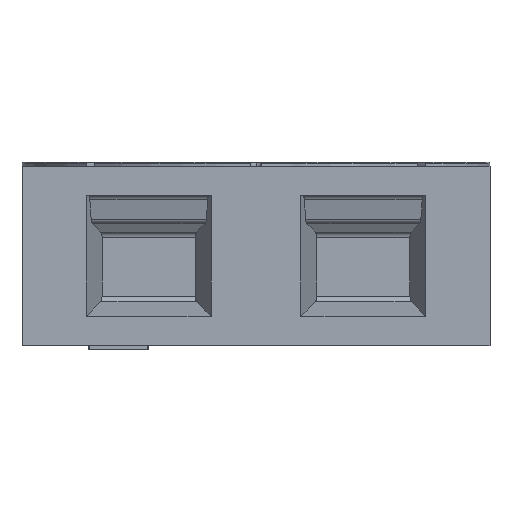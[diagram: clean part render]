
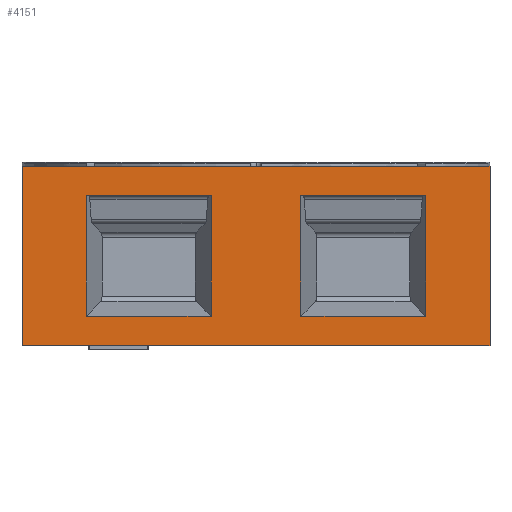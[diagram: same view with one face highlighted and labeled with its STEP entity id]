
A CAD part, front view. The second image highlights one B-rep face of the part: STEP entity #4151.
In plain terms, the highlighted planar face has unit normal (0, -1, 0).
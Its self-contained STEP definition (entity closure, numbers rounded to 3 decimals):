
#165 = VERTEX_POINT ( 'NONE', #20666 ) ;
#337 = CARTESIAN_POINT ( 'NONE',  ( -435., -760., 195. ) ) ;
#626 = LINE ( 'NONE', #18074, #23529 ) ;
#678 = VERTEX_POINT ( 'NONE', #735 ) ;
#735 = CARTESIAN_POINT ( 'NONE',  ( -600., -760., 270. ) ) ;
#919 = DIRECTION ( 'NONE',  ( 0., 0., -1. ) ) ;
#1056 = EDGE_CURVE ( 'NONE', #17198, #13544, #20456, .T. ) ;
#1282 = CARTESIAN_POINT ( 'NONE',  ( -600., -760., 270. ) ) ;
#1517 = EDGE_CURVE ( 'NONE', #678, #10863, #3012, .T. ) ;
#2758 = CARTESIAN_POINT ( 'NONE',  ( 435., -760., 195. ) ) ;
#2892 = LINE ( 'NONE', #7926, #15915 ) ;
#2973 = CARTESIAN_POINT ( 'NONE',  ( -600., -760., -190. ) ) ;
#2980 = ORIENTED_EDGE ( 'NONE', *, *, #16413, .F. ) ;
#2993 = EDGE_LOOP ( 'NONE', ( #10009, #7219, #25128, #26636 ) ) ;
#3012 = LINE ( 'NONE', #1282, #15743 ) ;
#3250 = CARTESIAN_POINT ( 'NONE',  ( 600., -760., -190. ) ) ;
#3374 = AXIS2_PLACEMENT_3D ( 'NONE', #9334, #13662, #22321 ) ;
#3419 = VERTEX_POINT ( 'NONE', #15373 ) ;
#3686 = DIRECTION ( 'NONE',  ( 0., 0., -1. ) ) ;
#3699 = VECTOR ( 'NONE', #18837, 1000. ) ;
#4072 = VECTOR ( 'NONE', #8825, 1000. ) ;
#4151 = ADVANCED_FACE ( 'NONE', ( #11655, #13810, #11509 ), #11362, .T. ) ;
#4173 = VERTEX_POINT ( 'NONE', #7296 ) ;
#5125 = LINE ( 'NONE', #2973, #3699 ) ;
#6850 = ORIENTED_EDGE ( 'NONE', *, *, #22831, .T. ) ;
#6900 = ORIENTED_EDGE ( 'NONE', *, *, #23936, .F. ) ;
#7058 = VERTEX_POINT ( 'NONE', #26082 ) ;
#7219 = ORIENTED_EDGE ( 'NONE', *, *, #26568, .F. ) ;
#7230 = LINE ( 'NONE', #337, #23449 ) ;
#7267 = LINE ( 'NONE', #3250, #21192 ) ;
#7296 = CARTESIAN_POINT ( 'NONE',  ( -435., -760., -115. ) ) ;
#7758 = CARTESIAN_POINT ( 'NONE',  ( 435., -760., 195. ) ) ;
#7926 = CARTESIAN_POINT ( 'NONE',  ( 115., -760., 195. ) ) ;
#8825 = DIRECTION ( 'NONE',  ( 1., 0., 0. ) ) ;
#9334 = CARTESIAN_POINT ( 'NONE',  ( -600., -760., -190. ) ) ;
#9478 = CARTESIAN_POINT ( 'NONE',  ( 435., -760., 195. ) ) ;
#9802 = DIRECTION ( 'NONE',  ( 0., 0., -1. ) ) ;
#10009 = ORIENTED_EDGE ( 'NONE', *, *, #18501, .F. ) ;
#10863 = VERTEX_POINT ( 'NONE', #17745 ) ;
#11010 = EDGE_CURVE ( 'NONE', #165, #3419, #2892, .T. ) ;
#11362 = PLANE ( 'NONE',  #3374 ) ;
#11389 = LINE ( 'NONE', #20021, #22606 ) ;
#11509 = FACE_BOUND ( 'NONE', #2993, .T. ) ;
#11580 = EDGE_CURVE ( 'NONE', #7058, #20934, #7230, .T. ) ;
#11655 = FACE_OUTER_BOUND ( 'NONE', #20322, .T. ) ;
#12110 = LINE ( 'NONE', #20893, #4072 ) ;
#12240 = DIRECTION ( 'NONE',  ( 1., 0., 0. ) ) ;
#12579 = VECTOR ( 'NONE', #13531, 1000. ) ;
#12585 = VERTEX_POINT ( 'NONE', #28103 ) ;
#12638 = VERTEX_POINT ( 'NONE', #14957 ) ;
#12973 = EDGE_CURVE ( 'NONE', #27950, #10863, #7267, .T. ) ;
#13224 = EDGE_CURVE ( 'NONE', #20934, #12638, #626, .T. ) ;
#13531 = DIRECTION ( 'NONE',  ( 1., 0., 0. ) ) ;
#13544 = VERTEX_POINT ( 'NONE', #26278 ) ;
#13662 = DIRECTION ( 'NONE',  ( 0., -1., 0. ) ) ;
#13789 = DIRECTION ( 'NONE',  ( 0., 0., 1. ) ) ;
#13810 = FACE_BOUND ( 'NONE', #23575, .T. ) ;
#14957 = CARTESIAN_POINT ( 'NONE',  ( -115., -760., -115. ) ) ;
#15373 = CARTESIAN_POINT ( 'NONE',  ( 115., -760., -115. ) ) ;
#15743 = VECTOR ( 'NONE', #12240, 1000. ) ;
#15879 = DIRECTION ( 'NONE',  ( -1., 0., 0. ) ) ;
#15915 = VECTOR ( 'NONE', #9802, 1000. ) ;
#16099 = LINE ( 'NONE', #27070, #12579 ) ;
#16413 = EDGE_CURVE ( 'NONE', #12585, #678, #5125, .T. ) ;
#17050 = EDGE_CURVE ( 'NONE', #13544, #3419, #11389, .T. ) ;
#17198 = VERTEX_POINT ( 'NONE', #7758 ) ;
#17745 = CARTESIAN_POINT ( 'NONE',  ( 600., -760., 270. ) ) ;
#17997 = CARTESIAN_POINT ( 'NONE',  ( 600., -760., -190. ) ) ;
#18074 = CARTESIAN_POINT ( 'NONE',  ( -115., -760., 195. ) ) ;
#18231 = ORIENTED_EDGE ( 'NONE', *, *, #11010, .F. ) ;
#18501 = EDGE_CURVE ( 'NONE', #4173, #12638, #16099, .T. ) ;
#18837 = DIRECTION ( 'NONE',  ( 0., 0., 1. ) ) ;
#19516 = CARTESIAN_POINT ( 'NONE',  ( -115., -760., 195. ) ) ;
#19560 = DIRECTION ( 'NONE',  ( 1., 0., 0. ) ) ;
#20021 = CARTESIAN_POINT ( 'NONE',  ( 435., -760., -115. ) ) ;
#20028 = LINE ( 'NONE', #26833, #20137 ) ;
#20137 = VECTOR ( 'NONE', #20461, 1000. ) ;
#20322 = EDGE_LOOP ( 'NONE', ( #24951, #23039, #2980, #6850 ) ) ;
#20456 = LINE ( 'NONE', #9478, #22812 ) ;
#20461 = DIRECTION ( 'NONE',  ( 0., 0., -1. ) ) ;
#20666 = CARTESIAN_POINT ( 'NONE',  ( 115., -760., 195. ) ) ;
#20893 = CARTESIAN_POINT ( 'NONE',  ( -600., -760., -190. ) ) ;
#20934 = VERTEX_POINT ( 'NONE', #19516 ) ;
#21192 = VECTOR ( 'NONE', #13789, 1000. ) ;
#22321 = DIRECTION ( 'NONE',  ( 0., 0., -1. ) ) ;
#22606 = VECTOR ( 'NONE', #26956, 1000. ) ;
#22615 = ORIENTED_EDGE ( 'NONE', *, *, #1056, .T. ) ;
#22812 = VECTOR ( 'NONE', #3686, 1000. ) ;
#22831 = EDGE_CURVE ( 'NONE', #12585, #27950, #12110, .T. ) ;
#23039 = ORIENTED_EDGE ( 'NONE', *, *, #1517, .F. ) ;
#23449 = VECTOR ( 'NONE', #19560, 1000. ) ;
#23529 = VECTOR ( 'NONE', #919, 1000. ) ;
#23575 = EDGE_LOOP ( 'NONE', ( #6900, #22615, #25871, #18231 ) ) ;
#23936 = EDGE_CURVE ( 'NONE', #17198, #165, #27134, .T. ) ;
#24951 = ORIENTED_EDGE ( 'NONE', *, *, #12973, .T. ) ;
#25128 = ORIENTED_EDGE ( 'NONE', *, *, #11580, .T. ) ;
#25871 = ORIENTED_EDGE ( 'NONE', *, *, #17050, .T. ) ;
#26082 = CARTESIAN_POINT ( 'NONE',  ( -435., -760., 195. ) ) ;
#26116 = VECTOR ( 'NONE', #15879, 1000. ) ;
#26278 = CARTESIAN_POINT ( 'NONE',  ( 435., -760., -115. ) ) ;
#26568 = EDGE_CURVE ( 'NONE', #7058, #4173, #20028, .T. ) ;
#26636 = ORIENTED_EDGE ( 'NONE', *, *, #13224, .T. ) ;
#26833 = CARTESIAN_POINT ( 'NONE',  ( -435., -760., 195. ) ) ;
#26956 = DIRECTION ( 'NONE',  ( -1., 0., 0. ) ) ;
#27070 = CARTESIAN_POINT ( 'NONE',  ( -435., -760., -115. ) ) ;
#27134 = LINE ( 'NONE', #2758, #26116 ) ;
#27950 = VERTEX_POINT ( 'NONE', #17997 ) ;
#28103 = CARTESIAN_POINT ( 'NONE',  ( -600., -760., -190. ) ) ;
